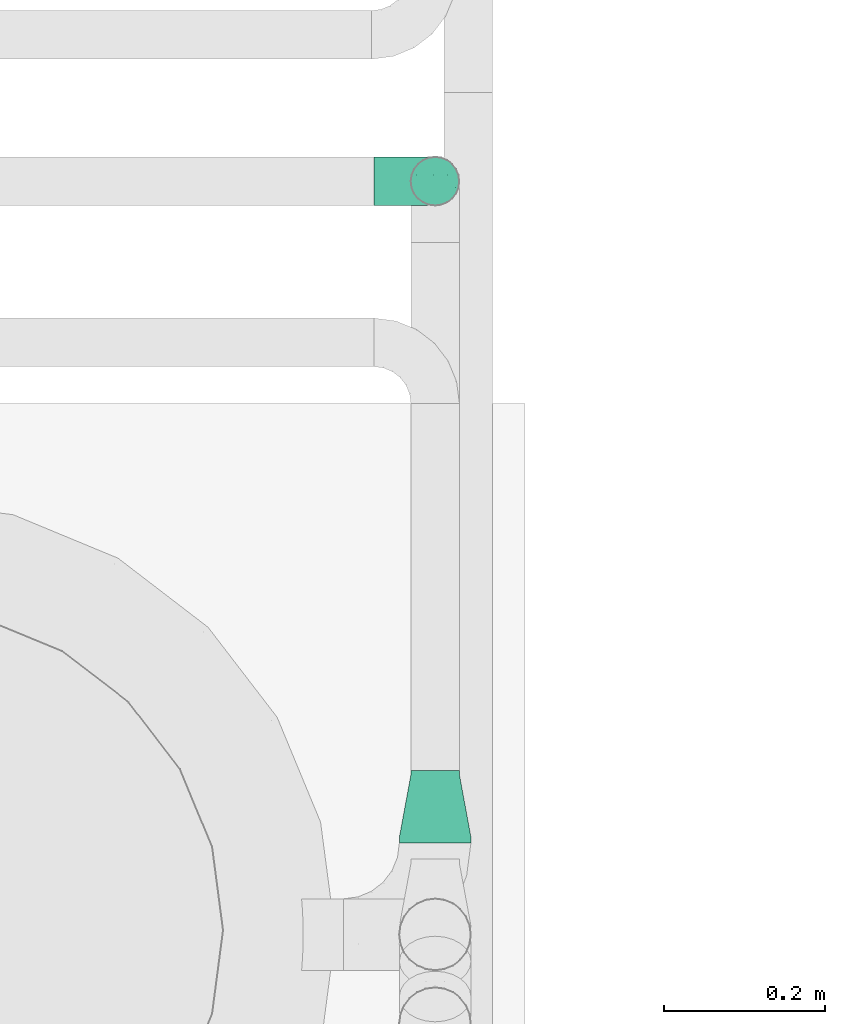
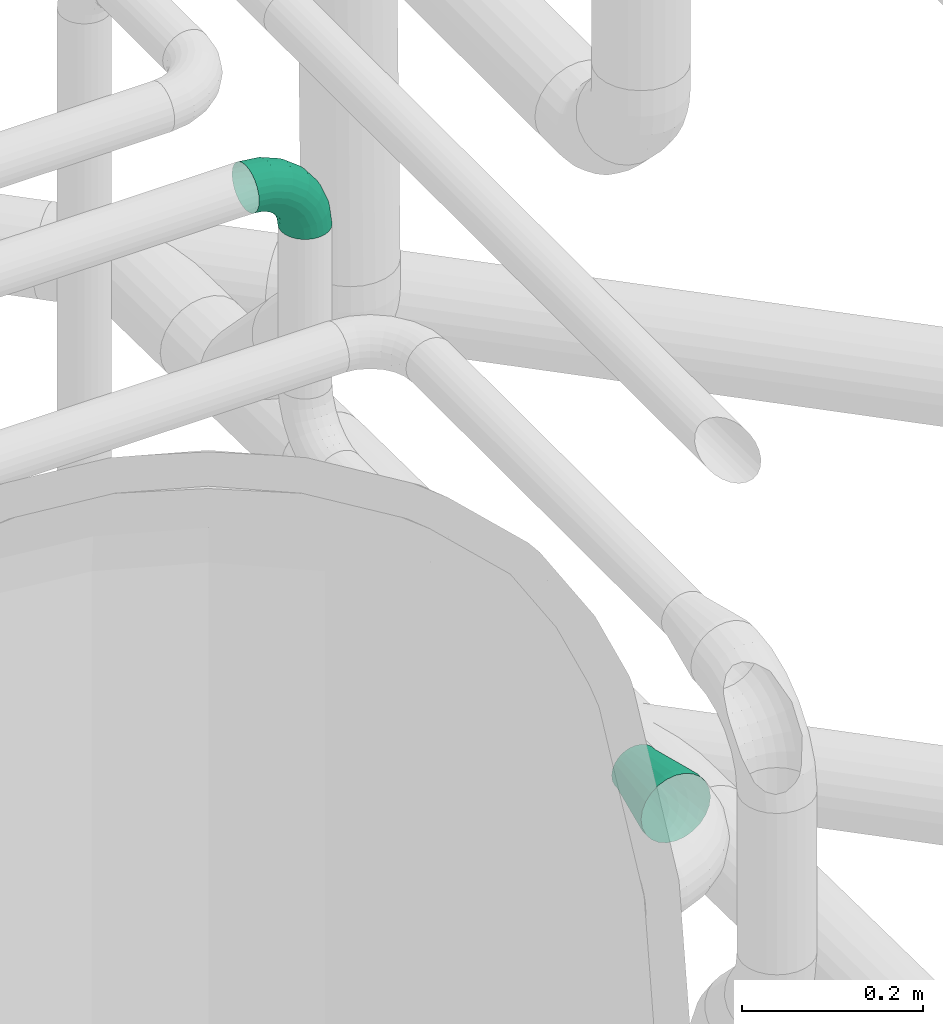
# One storey, part 115 of 374: 1 flow fitting, 1 flow segment.
"""IFC2X3 building model written with IfcOpenShell, lengths in metres."""

from ifc_helpers import new_model, si_unit, direction, origin, place, context, subcontext, project, spatial, open_shell, surface_model, source, transform, mapped, element, save


model = new_model("IFC2X3")

# Units and contexts
model_context = context("Model", 3, precision=1e-05, world=origin(), true_north=direction((-0.4480736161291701, 0.8939966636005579)))
body_context = subcontext(model_context, "Body", "Model", "MODEL_VIEW")
ifc_project = project(units=[si_unit("LENGTHUNIT", "METRE"), si_unit("AREAUNIT", "SQUARE_METRE"), si_unit("VOLUMEUNIT", "CUBIC_METRE"), si_unit("PLANEANGLEUNIT", "RADIAN"), si_unit("THERMODYNAMICTEMPERATUREUNIT", "KELVIN"), si_unit("MASSUNIT", "GRAM", prefix="KILO"), si_unit("TIMEUNIT", "SECOND")], contexts=[model_context])

# Site, building, storey
site_placement = place(None, origin())
site = spatial("IfcSite", under=ifc_project, at=site_placement, Name="Site 1", CompositionType="ELEMENT")
building_placement = place(site_placement, origin())
building = spatial("IfcBuilding", under=site, at=building_placement, Name="Undefined", CompositionType="ELEMENT")
storey_placement = place(building_placement, origin())
storey = spatial("IfcBuildingStorey", under=building, at=storey_placement, Name="Rez de chauss\x8ee", CompositionType="ELEMENT", Elevation=0.0)

# Flow segment
shared_shape_1 = source(origin(), body_context, "Body", "SurfaceModel", [
    surface_model("IfcFaceBasedSurfaceModel", [(0.027710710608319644, 4.4408921e-16, 0.0), (0.02757661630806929, 0.00786958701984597, 7.105427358e-15), (0.00013409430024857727, 0.00786958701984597, 0.0), (0.0, 0.0, 0.0), (-0.02637334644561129, 0.008788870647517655, -0.0070429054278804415), (-0.026766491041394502, 0.0009282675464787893, -0.007111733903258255), (-0.050139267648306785, 0.010564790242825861, -0.02064875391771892), (-0.050764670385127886, 0.0027215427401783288, -0.02085054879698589), (-0.06954406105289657, 0.013076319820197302, -0.03989032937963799), (-0.07035910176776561, 0.00525761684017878, -0.04028016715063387), (-0.0832653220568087, 0.01615230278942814, -0.06345635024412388), (-0.08421445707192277, 0.00836366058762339, -0.06407649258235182), (-0.09036796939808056, 0.019583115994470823, -0.08974083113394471), (-0.0913865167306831, 0.011828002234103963, -0.09061784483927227), (0.027183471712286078, 0.015466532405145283, -0.0020199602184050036), (0.0005272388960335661, 0.015466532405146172, -0.0020199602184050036), (-0.025220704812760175, 0.016359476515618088, -0.008861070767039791), (-0.048305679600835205, 0.018084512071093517, -0.02207708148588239), (-0.06715448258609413, 0.020524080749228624, -0.04076734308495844), (-0.0804825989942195, 0.023511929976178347, -0.06365814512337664), (-0.08738173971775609, 0.026844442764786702, -0.08918951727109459), (0.026558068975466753, 0.022273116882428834, -0.005922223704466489), (0.001152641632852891, 0.02227311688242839, -0.005922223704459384), (-0.02338711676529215, 0.023124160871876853, -0.012442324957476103), (-0.04538886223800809, 0.02476825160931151, -0.02503819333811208), (-0.06335321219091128, 0.027093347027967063, -0.042851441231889), (-0.07605592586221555, 0.029940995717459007, -0.06466812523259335), (-0.08263133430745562, 0.033117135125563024, -0.08900147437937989), (0.025743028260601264, 0.0278254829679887, -0.011440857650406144), (0.0019676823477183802, 0.027825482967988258, -0.011440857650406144), (-0.020997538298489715, 0.028621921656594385, -0.017542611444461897), (-0.04158759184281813, 0.03016052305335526, -0.029330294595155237), (-0.058399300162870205, 0.0323364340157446, -0.04600059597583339), (-0.07028697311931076, 0.03500136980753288, -0.06641746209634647), (-0.07644048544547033, 0.0379737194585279, -0.08918951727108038), (0.02479389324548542, 0.03174524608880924, -0.01819977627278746), (0.0029168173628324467, 0.03174524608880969, -0.01819977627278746), (-0.018214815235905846, 0.0324780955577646, -0.023814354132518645), (-0.03716091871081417, 0.033893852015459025, -0.034660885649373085), (-0.052630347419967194, 0.03589603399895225, -0.05000019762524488), (-0.06356888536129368, 0.03834819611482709, -0.06878694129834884), (-0.06923108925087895, 0.041083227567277, -0.0897408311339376), (0.023775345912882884, 0.03376528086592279, -0.02573837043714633), (0.003935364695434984, 0.03376528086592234, -0.02573837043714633), (-0.01522858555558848, 0.03442989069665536, -0.03083014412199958), (-0.0324105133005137, 0.03571381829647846, -0.040666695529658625), (-0.046439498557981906, 0.0375295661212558, -0.05457767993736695), (-0.05635948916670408, 0.039753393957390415, -0.07161508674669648), (-0.061494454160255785, 0.04223375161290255, -0.09061784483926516), (0.022756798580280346, 0.03374792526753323, -0.033542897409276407), (0.0049539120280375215, 0.033747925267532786, -0.033542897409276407), (-0.01224235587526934, 0.03434429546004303, -0.03811186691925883), (-0.027660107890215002, 0.035496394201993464, -0.04693843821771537), (-0.040248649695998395, 0.0371257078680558, -0.05942109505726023), (-0.04915009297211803, 0.039121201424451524, -0.07470916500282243), (-0.05375781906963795, 0.041346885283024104, -0.09176079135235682), (0.02180766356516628, 0.03169436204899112, -0.04108149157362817), (0.005903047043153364, 0.031694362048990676, -0.04108149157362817), (-0.00945963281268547, 0.03222714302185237, -0.045163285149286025), (-0.02323343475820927, 0.03325639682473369, -0.05304870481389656), (-0.034479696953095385, 0.034711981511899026, -0.06420037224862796), (-0.04243200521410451, 0.036494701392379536, -0.07785831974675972), (-0.04654842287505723, 0.03848306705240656, -0.09309178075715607), (0.020992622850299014, 0.02774453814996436, -0.0478404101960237), (0.006718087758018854, 0.027744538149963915, -0.0478404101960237), (-0.007070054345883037, 0.02822271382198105, -0.05150385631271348), (-0.019432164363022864, 0.0291464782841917, -0.0585810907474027), (-0.029525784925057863, 0.030452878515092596, -0.06858981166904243), (-0.03666305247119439, 0.032052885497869, -0.08084794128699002), (-0.04035757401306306, 0.03383746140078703, -0.09452010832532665), (0.020367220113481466, 0.022167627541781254, -0.05335904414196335), (0.0073434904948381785, 0.022167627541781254, -0.05335904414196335), (-0.00523646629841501, 0.02260390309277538, -0.05670148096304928), (-0.016515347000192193, 0.023446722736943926, -0.06315857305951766), (-0.025724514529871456, 0.02463864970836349, -0.07229028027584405), (-0.03223637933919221, 0.02609845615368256, -0.0834742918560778), (-0.03560716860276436, 0.027726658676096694, -0.09594843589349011), (0.019974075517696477, 0.01534368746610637, -0.05726130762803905), (0.007736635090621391, 0.01534368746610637, -0.05726130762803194), (-0.004083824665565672, 0.01575362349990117, -0.06040194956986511), (-0.014681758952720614, 0.01654555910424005, -0.06646920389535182), (-0.02333493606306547, 0.01766552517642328, -0.07504959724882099), (-0.029453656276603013, 0.01903719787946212, -0.08555839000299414), (-0.032620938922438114, 0.02056709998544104, -0.09727942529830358), (0.019839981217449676, 0.00773775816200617, -0.05928126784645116), (0.007870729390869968, 0.007737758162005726, -0.05928126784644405), (-0.003690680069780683, 0.008138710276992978, -0.062353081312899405), (-0.014056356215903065, 0.008913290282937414, -0.06828736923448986), (-0.022519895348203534, 0.01000871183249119, -0.07667971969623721), (-0.0285045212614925, 0.011350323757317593, -0.08695820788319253), (-0.03160239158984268, 0.012846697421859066, -0.09842237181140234), (0.019974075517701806, -0.0001318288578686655, -0.05928126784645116), (0.007736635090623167, -0.0001318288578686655, -0.059281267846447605), (-0.004083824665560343, 0.0002781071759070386, -0.062421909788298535), (-0.014681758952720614, 0.001070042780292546, -0.06848916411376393), (-0.02333493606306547, 0.0021900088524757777, -0.0770695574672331), (-0.029453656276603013, 0.0035616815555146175, -0.08757835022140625), (-0.032620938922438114, 0.005091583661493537, -0.09929938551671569), (0.020367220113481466, -0.007728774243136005, -0.057261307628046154), (0.0073434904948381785, -0.007728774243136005, -0.057261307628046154), (-0.00523646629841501, -0.00729249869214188, -0.06060374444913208), (-0.016515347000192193, -0.0064496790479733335, -0.06706083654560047), (-0.025724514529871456, -0.005257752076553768, -0.07619254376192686), (-0.03223637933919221, -0.0037979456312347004, -0.0873765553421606), (-0.03560716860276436, -0.0021697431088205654, -0.09985069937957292), (0.020992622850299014, -0.01453535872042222, -0.053359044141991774), (0.006718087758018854, -0.014535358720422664, -0.053359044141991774), (-0.007070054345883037, -0.01405718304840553, -0.05702249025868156), (-0.019432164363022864, -0.013133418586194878, -0.06409972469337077), (-0.029525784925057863, -0.011827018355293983, -0.07410844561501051), (-0.03666305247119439, -0.01022701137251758, -0.0863665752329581), (-0.04035757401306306, -0.008442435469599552, -0.10003874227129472), (0.02180766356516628, -0.020087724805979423, -0.04784041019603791), (0.005903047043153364, -0.020087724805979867, -0.04784041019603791), (-0.00945963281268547, -0.019554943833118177, -0.05192220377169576), (-0.02323343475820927, -0.018525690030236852, -0.0598076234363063), (-0.034479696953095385, -0.017070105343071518, -0.0709592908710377), (-0.04243200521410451, -0.015287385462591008, -0.08461723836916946), (-0.04654842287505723, -0.013299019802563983, -0.09985069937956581), (0.022756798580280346, -0.024007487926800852, -0.0410814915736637), (0.0049539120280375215, -0.024007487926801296, -0.0410814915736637), (-0.01224235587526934, -0.023411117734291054, -0.04565046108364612), (-0.027660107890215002, -0.022259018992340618, -0.054477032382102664), (-0.040248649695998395, -0.02062970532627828, -0.06695968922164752), (-0.04915009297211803, -0.018634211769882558, -0.08224775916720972), (-0.05375781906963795, -0.016408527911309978, -0.09929938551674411), (0.023775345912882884, -0.026027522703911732, -0.033542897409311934), (0.003935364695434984, -0.026027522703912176, -0.033542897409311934), (-0.01522858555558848, -0.025362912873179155, -0.038634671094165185), (-0.0324105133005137, -0.024078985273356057, -0.04847122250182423), (-0.046439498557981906, -0.02226323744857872, -0.062382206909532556), (-0.05635948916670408, -0.020039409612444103, -0.07941961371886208), (-0.061494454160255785, -0.01755905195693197, -0.09842237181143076), (0.02479389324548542, -0.02601016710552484, -0.02573837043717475), (0.0029168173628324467, -0.026010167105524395, -0.02573837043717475), (-0.018214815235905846, -0.025277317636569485, -0.031352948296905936), (-0.03716091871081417, -0.023861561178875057, -0.04219947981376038), (-0.052630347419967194, -0.021859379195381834, -0.05753879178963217), (-0.06356888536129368, -0.01940721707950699, -0.07632553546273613), (-0.06923108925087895, -0.01667218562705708, -0.0972794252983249), (0.025743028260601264, -0.023956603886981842, -0.018199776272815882), (0.0019676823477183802, -0.023956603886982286, -0.018199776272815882), (-0.020997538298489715, -0.02316016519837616, -0.024301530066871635), (-0.04158759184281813, -0.021621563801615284, -0.036089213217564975), (-0.058399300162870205, -0.019445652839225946, -0.05275951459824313), (-0.07028697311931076, -0.016780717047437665, -0.0731763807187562), (-0.07644048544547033, -0.013808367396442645, -0.09594843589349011), (0.026558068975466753, -0.020006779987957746, -0.011440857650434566), (0.001152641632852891, -0.02000677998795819, -0.01144085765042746), (-0.02338711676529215, -0.019155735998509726, -0.01796095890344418), (-0.04538886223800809, -0.01751164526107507, -0.030556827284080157), (-0.06335321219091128, -0.015186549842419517, -0.048370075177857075), (-0.07605592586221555, -0.012338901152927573, -0.07018675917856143), (-0.08263133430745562, -0.009162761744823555, -0.09452010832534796), (0.027183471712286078, -0.014429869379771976, -0.005922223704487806), (0.0005272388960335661, -0.014429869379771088, -0.005922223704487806), (-0.025220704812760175, -0.013536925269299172, -0.012763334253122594), (-0.048305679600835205, -0.011811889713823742, -0.02597934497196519), (-0.06715448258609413, -0.009372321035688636, -0.04466960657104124), (-0.0804825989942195, -0.006384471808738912, -0.06756040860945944), (-0.08738173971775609, -0.003051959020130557, -0.09309178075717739), (0.02757661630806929, -0.007605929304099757, -0.0020199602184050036), (0.00013409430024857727, -0.007605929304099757, -0.002019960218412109), (-0.02637334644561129, -0.006686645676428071, -0.00906286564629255), (-0.050139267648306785, -0.004910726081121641, -0.02266871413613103), (-0.06954406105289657, -0.0023991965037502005, -0.0419102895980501), (-0.0832653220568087, 0.0006767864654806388, -0.06547631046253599), (-0.09036796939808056, 0.004107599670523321, -0.09176079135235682)], [open_shell([[[0, 1, 2, 3]], [[3, 2, 4, 5]], [[5, 4, 6, 7]], [[7, 6, 8, 9]], [[9, 8, 10, 11]], [[11, 10, 12, 13]], [[1, 14, 15, 2]], [[2, 15, 16, 4]], [[4, 16, 17, 6]], [[6, 17, 18, 8]], [[8, 18, 19, 10]], [[10, 19, 20, 12]], [[14, 21, 22, 15]], [[15, 22, 23, 16]], [[16, 23, 24, 17]], [[17, 24, 25, 18]], [[18, 25, 26, 19]], [[19, 26, 27, 20]], [[21, 28, 29, 22]], [[22, 29, 30, 23]], [[23, 30, 31, 24]], [[24, 31, 32, 25]], [[25, 32, 33, 26]], [[26, 33, 34, 27]], [[28, 35, 36, 29]], [[29, 36, 37, 30]], [[30, 37, 38, 31]], [[31, 38, 39, 32]], [[32, 39, 40, 33]], [[33, 40, 41, 34]], [[35, 42, 43, 36]], [[36, 43, 44, 37]], [[37, 44, 45, 38]], [[38, 45, 46, 39]], [[39, 46, 47, 40]], [[40, 47, 48, 41]], [[42, 49, 50, 43]], [[43, 50, 51, 44]], [[44, 51, 52, 45]], [[45, 52, 53, 46]], [[46, 53, 54, 47]], [[47, 54, 55, 48]], [[49, 56, 57, 50]], [[50, 57, 58, 51]], [[51, 58, 59, 52]], [[52, 59, 60, 53]], [[53, 60, 61, 54]], [[54, 61, 62, 55]], [[56, 63, 64, 57]], [[57, 64, 65, 58]], [[58, 65, 66, 59]], [[59, 66, 67, 60]], [[60, 67, 68, 61]], [[61, 68, 69, 62]], [[63, 70, 71, 64]], [[64, 71, 72, 65]], [[65, 72, 73, 66]], [[66, 73, 74, 67]], [[67, 74, 75, 68]], [[68, 75, 76, 69]], [[70, 77, 78, 71]], [[71, 78, 79, 72]], [[72, 79, 80, 73]], [[73, 80, 81, 74]], [[74, 81, 82, 75]], [[75, 82, 83, 76]], [[77, 84, 85, 78]], [[78, 85, 86, 79]], [[79, 86, 87, 80]], [[80, 87, 88, 81]], [[81, 88, 89, 82]], [[82, 89, 90, 83]], [[84, 91, 92, 85]], [[85, 92, 93, 86]], [[86, 93, 94, 87]], [[87, 94, 95, 88]], [[88, 95, 96, 89]], [[89, 96, 97, 90]], [[91, 98, 99, 92]], [[92, 99, 100, 93]], [[93, 100, 101, 94]], [[94, 101, 102, 95]], [[95, 102, 103, 96]], [[96, 103, 104, 97]], [[98, 105, 106, 99]], [[99, 106, 107, 100]], [[100, 107, 108, 101]], [[101, 108, 109, 102]], [[102, 109, 110, 103]], [[103, 110, 111, 104]], [[105, 112, 113, 106]], [[106, 113, 114, 107]], [[107, 114, 115, 108]], [[108, 115, 116, 109]], [[109, 116, 117, 110]], [[110, 117, 118, 111]], [[112, 119, 120, 113]], [[113, 120, 121, 114]], [[114, 121, 122, 115]], [[115, 122, 123, 116]], [[116, 123, 124, 117]], [[117, 124, 125, 118]], [[119, 126, 127, 120]], [[120, 127, 128, 121]], [[121, 128, 129, 122]], [[122, 129, 130, 123]], [[123, 130, 131, 124]], [[124, 131, 132, 125]], [[126, 133, 134, 127]], [[127, 134, 135, 128]], [[128, 135, 136, 129]], [[129, 136, 137, 130]], [[130, 137, 138, 131]], [[131, 138, 139, 132]], [[133, 140, 141, 134]], [[134, 141, 142, 135]], [[135, 142, 143, 136]], [[136, 143, 144, 137]], [[137, 144, 145, 138]], [[138, 145, 146, 139]], [[140, 147, 148, 141]], [[141, 148, 149, 142]], [[142, 149, 150, 143]], [[143, 150, 151, 144]], [[144, 151, 152, 145]], [[145, 152, 153, 146]], [[147, 154, 155, 148]], [[148, 155, 156, 149]], [[149, 156, 157, 150]], [[150, 157, 158, 151]], [[151, 158, 159, 152]], [[152, 159, 160, 153]], [[154, 161, 162, 155]], [[155, 162, 163, 156]], [[156, 163, 164, 157]], [[157, 164, 165, 158]], [[158, 165, 166, 159]], [[159, 166, 167, 160]], [[161, 0, 3, 162]], [[162, 3, 5, 163]], [[163, 5, 7, 164]], [[164, 7, 9, 165]], [[165, 9, 11, 166]], [[166, 11, 13, 167]]])]),
])
flow_segment_placement = place(storey_placement, origin())
element("IfcFlowSegment", 1, at=flow_segment_placement, inside=storey, Name="Tube coudé", ObjectType="Tube coudé", context=body_context, shape_type="MappedRepresentation", body=[
    mapped(shared_shape_1, transform((54.954304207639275, 10.918037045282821, 2.0861747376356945), x_axis=(-0.9914448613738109, 0.0, 0.1305261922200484), y_axis=(-0.016893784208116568, -0.9915887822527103, -0.12832103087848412), z_axis=(0.12942830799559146, -0.1294283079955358, 0.9831056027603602))),
])

# Flow fitting
shared_shape_2 = source(origin(), body_context, "Body", "SurfaceModel", [
    surface_model("IfcFaceBasedSurfaceModel", [(0.0, 0.0, 0.0), (0.011603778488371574, 0.0, -1.776356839e-15), (0.011603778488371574, 0.0071496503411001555, -1.776356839e-15), (7.105427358e-15, 0.0071496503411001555, 0.0), (0.022812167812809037, 0.0, -0.0030032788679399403), (0.022812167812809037, 0.0071496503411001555, -0.0030032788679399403), (0.03286133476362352, 0.0, -0.008805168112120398), (0.03286133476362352, 0.0071496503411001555, -0.008805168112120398), (0.0410664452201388, 0.0, -0.01701027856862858), (0.0410664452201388, 0.0071496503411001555, -0.01701027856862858), (0.04686833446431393, 0.0, -0.027059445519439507), (0.04686833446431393, 0.0071496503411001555, -0.027059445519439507), (0.04987161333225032, 0.0, -0.03826783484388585), (0.04987161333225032, 0.0071496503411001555, -0.03826783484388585), (0.049871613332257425, 0.0, -0.04987161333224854), (0.049871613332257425, 0.0071496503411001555, -0.04987161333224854), (0.04686833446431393, 0.0, -0.06108000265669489), (0.04686833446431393, 0.0071496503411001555, -0.06108000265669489), (0.0410664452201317, 0.0, -0.07112916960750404), (0.0410664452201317, 0.0071496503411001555, -0.07112916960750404), (0.03286133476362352, 0.0, -0.07933428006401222), (0.03286133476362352, 0.0071496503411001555, -0.07933428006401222), (0.022812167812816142, 0.0, -0.08513616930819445), (0.022812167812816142, 0.0071496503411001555, -0.08513616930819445), (0.011603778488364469, 0.0, -0.08813944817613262), (0.011603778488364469, 0.0071496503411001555, -0.08813944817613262), (0.0, 0.0, -0.08813944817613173), (1.4210854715e-14, 0.0071496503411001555, -0.08813944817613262), (-0.011208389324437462, 0.0, -0.08513616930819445), (-0.011208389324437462, 0.0071496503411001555, -0.08513616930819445), (-0.021257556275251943, 0.0, -0.07933428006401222), (-0.021257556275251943, 0.0071496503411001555, -0.07933428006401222), (-0.02946266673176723, 0.0, -0.07112916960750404), (-0.02946266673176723, 0.0071496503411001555, -0.07112916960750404), (-0.03526455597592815, 0.0, -0.06108000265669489), (-0.03526455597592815, 0.0071496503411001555, -0.06108000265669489), (-0.038267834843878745, 0.0, -0.04987161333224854), (-0.038267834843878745, 0.0071496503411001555, -0.04987161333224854), (-0.03826783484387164, 0.0, -0.038267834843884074), (-0.03826783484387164, 0.0071496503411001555, -0.038267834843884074), (-0.03526455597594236, 0.0, -0.027059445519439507), (-0.03526455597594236, 0.0071496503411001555, -0.027059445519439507), (-0.029462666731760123, 0.0, -0.01701027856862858), (-0.029462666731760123, 0.0071496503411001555, -0.01701027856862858), (-0.021257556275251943, 0.0, -0.008805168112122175), (-0.021257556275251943, 0.0071496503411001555, -0.008805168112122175), (-0.011208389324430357, 0.0, -0.0030032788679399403), (-0.011208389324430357, 0.0071496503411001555, -0.0030032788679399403), (-0.024090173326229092, 0.08450909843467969, -0.040134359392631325), (-0.024090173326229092, 0.08450909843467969, -0.04800508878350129), (-0.022053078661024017, 0.08450909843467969, -0.03253181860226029), (-0.018117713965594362, 0.08450909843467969, -0.0257155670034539), (-0.012552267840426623, 0.08450909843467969, -0.02015012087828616), (-0.005736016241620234, 0.08450909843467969, -0.016214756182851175), (0.0018665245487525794, 0.08450909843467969, -0.0141776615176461), (0.009737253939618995, 0.08450909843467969, -0.0141776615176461), (0.017339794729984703, 0.08450909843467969, -0.016214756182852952), (0.024156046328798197, 0.08450909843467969, -0.02015012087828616), (0.029721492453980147, 0.08450909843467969, -0.0257155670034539), (0.0336568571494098, 0.08450909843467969, -0.03253181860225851), (0.035693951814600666, 0.08450909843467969, -0.0401343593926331), (0.03569395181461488, 0.08450909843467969, -0.04800508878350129), (0.0336568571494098, 0.08450909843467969, -0.05560762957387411), (0.029721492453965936, 0.08450909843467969, -0.06242388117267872), (0.024156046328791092, 0.08450909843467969, -0.06798932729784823), (0.01733979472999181, 0.08450909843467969, -0.07192469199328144), (0.009737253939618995, 0.08450909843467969, -0.07396178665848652), (0.0018665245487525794, 0.08450909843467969, -0.07396178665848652), (-0.005736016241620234, 0.08450909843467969, -0.07192469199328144), (-0.012552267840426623, 0.08450909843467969, -0.06798932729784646), (-0.018117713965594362, 0.08450909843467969, -0.062423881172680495), (-0.022053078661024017, 0.08450909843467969, -0.05560762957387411), (0.009737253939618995, 0.08999999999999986, -0.0141776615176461), (0.0018665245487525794, 0.08999999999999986, -0.0141776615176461), (0.017339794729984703, 0.08999999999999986, -0.016214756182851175), (0.024156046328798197, 0.08999999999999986, -0.02015012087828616), (0.029721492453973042, 0.08999999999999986, -0.0257155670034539), (0.0336568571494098, 0.08999999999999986, -0.03253181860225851), (0.035693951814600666, 0.08999999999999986, -0.0401343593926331), (0.03569395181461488, 0.08999999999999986, -0.04800508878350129), (0.0336568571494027, 0.08999999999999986, -0.05560762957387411), (0.029721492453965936, 0.08999999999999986, -0.06242388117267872), (0.024156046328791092, 0.08999999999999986, -0.06798932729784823), (0.01733979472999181, 0.08999999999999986, -0.07192469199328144), (0.00973725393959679, 0.08999999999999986, -0.07396178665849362), (0.0018665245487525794, 0.08999999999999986, -0.07396178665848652), (-0.005736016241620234, 0.08999999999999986, -0.07192469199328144), (-0.012552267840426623, 0.08999999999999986, -0.06798932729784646), (-0.018117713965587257, 0.08999999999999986, -0.06242388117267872), (-0.022053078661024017, 0.08999999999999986, -0.05560762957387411), (-0.024090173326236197, 0.08999999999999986, -0.04800508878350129), (-0.024090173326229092, 0.08999999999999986, -0.040134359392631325), (-0.02205307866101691, 0.08999999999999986, -0.03253181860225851), (-0.018117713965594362, 0.08999999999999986, -0.0257155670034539), (-0.012552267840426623, 0.08999999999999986, -0.020150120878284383), (-0.005736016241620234, 0.08999999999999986, -0.016214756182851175)], [open_shell([[[0, 1, 2, 3]], [[1, 4, 5, 2]], [[4, 6, 7, 5]], [[6, 8, 9, 7]], [[8, 10, 11, 9]], [[10, 12, 13, 11]], [[12, 14, 15, 13]], [[14, 16, 17, 15]], [[16, 18, 19, 17]], [[18, 20, 21, 19]], [[20, 22, 23, 21]], [[22, 24, 25, 23]], [[24, 26, 27, 25]], [[26, 28, 29, 27]], [[28, 30, 31, 29]], [[30, 32, 33, 31]], [[32, 34, 35, 33]], [[34, 36, 37, 35]], [[36, 38, 39, 37]], [[38, 40, 41, 39]], [[40, 42, 43, 41]], [[42, 44, 45, 43]], [[44, 46, 47, 45]], [[46, 0, 3, 47]], [[37, 39, 48, 49]], [[39, 41, 50, 48]], [[41, 43, 51, 50]], [[43, 45, 52, 51]], [[45, 47, 53, 52]], [[47, 3, 54, 53]], [[3, 2, 55, 54]], [[2, 5, 56, 55]], [[5, 7, 57, 56]], [[7, 9, 58, 57]], [[9, 11, 59, 58]], [[11, 13, 60, 59]], [[13, 15, 61, 60]], [[15, 17, 62, 61]], [[17, 19, 63, 62]], [[19, 21, 64, 63]], [[21, 23, 65, 64]], [[23, 25, 66, 65]], [[25, 27, 67, 66]], [[27, 29, 68, 67]], [[29, 31, 69, 68]], [[31, 33, 70, 69]], [[33, 35, 71, 70]], [[35, 37, 49, 71]], [[54, 55, 72, 73]], [[55, 56, 74, 72]], [[56, 57, 75, 74]], [[57, 58, 76, 75]], [[58, 59, 77, 76]], [[59, 60, 78, 77]], [[60, 61, 79, 78]], [[61, 62, 80, 79]], [[62, 63, 81, 80]], [[63, 64, 82, 81]], [[64, 65, 83, 82]], [[65, 66, 84, 83]], [[66, 67, 85, 84]], [[67, 68, 86, 85]], [[68, 69, 87, 86]], [[69, 70, 88, 87]], [[70, 71, 89, 88]], [[71, 49, 90, 89]], [[49, 48, 91, 90]], [[48, 50, 92, 91]], [[50, 51, 93, 92]], [[51, 52, 94, 93]], [[52, 53, 95, 94]], [[53, 54, 73, 95]]])]),
])
flow_fitting_placement = place(storey_placement, origin())
element("IfcFlowFitting", 2, at=flow_fitting_placement, inside=storey, Name="Réduction", ObjectType="Réduction", context=body_context, shape_type="MappedRepresentation", body=[
    mapped(shared_shape_2, transform((55.002830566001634, 10.096315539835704, 1.7362344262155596), x_axis=(0.9914448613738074, 0.0, -0.13052619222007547), y_axis=(0.0, 1.0, 0.0), z_axis=(0.1305261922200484, 0.0, 0.9914448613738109))),
])

save(model, "model.ifc")
